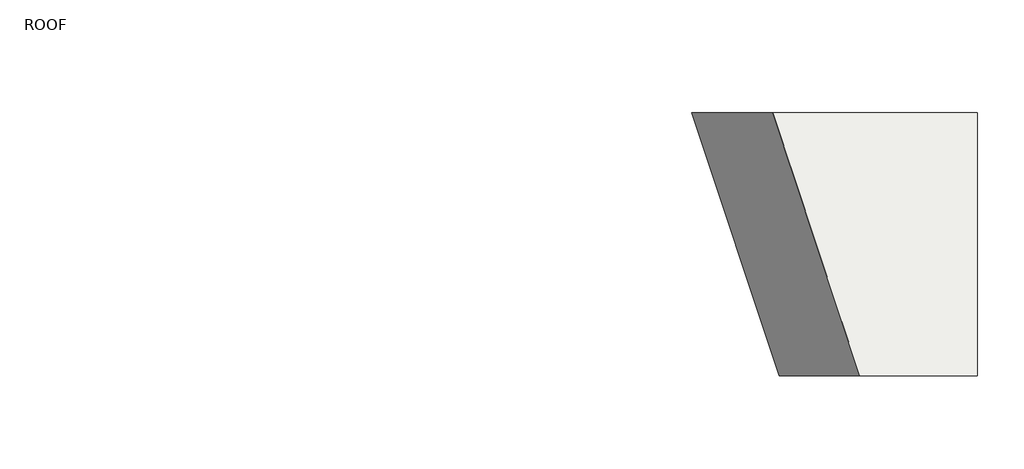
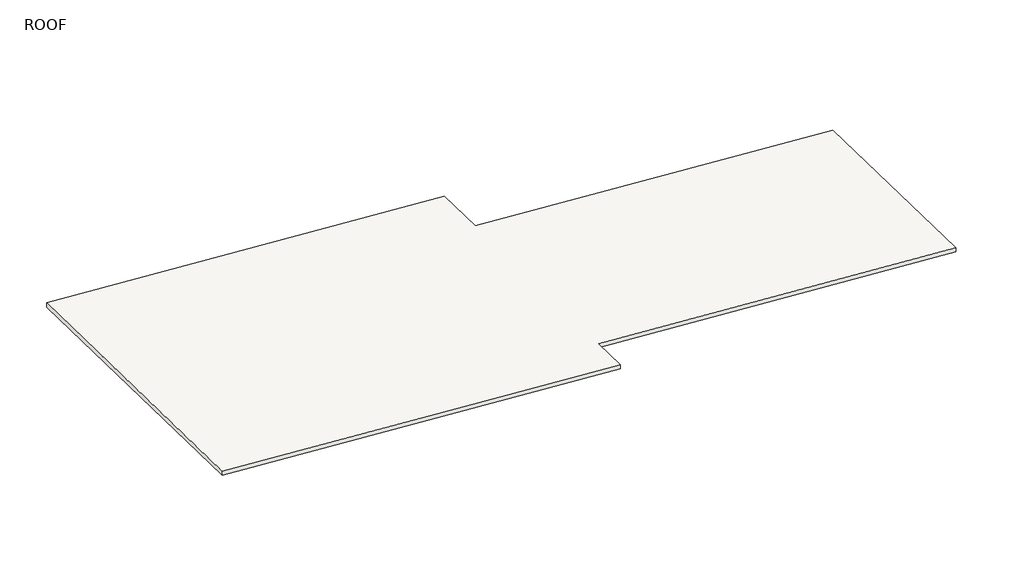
# One storey: 1 roof.
"""IFC4 building model written with IfcOpenShell, lengths in millimetres."""

import ifcopenshell
import ifcopenshell.guid

model = None  # the IFC model being written
_history = None  # IfcOwnerHistory: only IFC2X3 demands one
_inside = {}  # id of a spatial element -> (the spatial element, [elements in it])
_under = {}  # id of a project, library or spatial element -> (it, [spatial elements below it])
_declared = {}  # id of a project -> (the project, [libraries it declares])
_typed = {}  # id of a type object -> (the type object, [elements of that type])
_made_of = {}  # id of a material, layer set ... -> (it, [elements and type objects made of it])


def new_model(schema):
    """Start an empty IFC model of exactly this schema.

    Asked for "IFC4X3", IfcOpenShell would pick the latest addendum, in which some entities
    have other attributes; the version numbers below select the first issue.
    IFC2X3 requires an IfcOwnerHistory on every rooted entity: one is made here for all.
    """
    global model, _history
    if schema == "IFC4X3":
        model = ifcopenshell.file(schema_version=(4, 3, 0, 0))
    else:
        model = ifcopenshell.file(schema=schema)
    _inside.clear()
    _under.clear()
    _declared.clear()
    _typed.clear()
    _made_of.clear()
    _history = None
    if model.schema == "IFC2X3":
        org = make("IfcOrganization", Name="unknown")
        user = make(
            "IfcPersonAndOrganization",
            ThePerson=make("IfcPerson", FamilyName="unknown"),
            TheOrganization=org,
        )
        app = make(
            "IfcApplication",
            ApplicationDeveloper=org,
            Version="unknown",
            ApplicationFullName="unknown",
            ApplicationIdentifier="unknown",
        )
        _history = make(
            "IfcOwnerHistory",
            OwningUser=user,
            OwningApplication=app,
            ChangeAction="ADDED",
            CreationDate=0,
        )
    return model


def make(cls, **values):
    """One entity of the class cls with the attributes given. An attribute that is None is left unset."""
    return model.create_entity(
        cls, **{name: value for name, value in values.items() if value is not None}
    )


def rooted(cls, **values):
    """An entity with a GlobalId (a new one), such as an element, a storey or a relation."""
    return make(cls, GlobalId=ifcopenshell.guid.new(), OwnerHistory=_history, **values)


def si_unit(unit_type, name, prefix=None):
    """IfcSIUnit, for example si_unit("LENGTHUNIT", "METRE", prefix="MILLI")."""
    return make("IfcSIUnit", UnitType=unit_type, Prefix=prefix, Name=name)


def assignment(units):
    """IfcUnitAssignment: the units of a project."""
    return None if units is None else make("IfcUnitAssignment", Units=units)


def point(xyz):
    """IfcCartesianPoint."""
    return None if xyz is None else make("IfcCartesianPoint", Coordinates=xyz)


def direction(xyz):
    """IfcDirection."""
    return None if xyz is None else make("IfcDirection", DirectionRatios=xyz)


def frame(location, z_axis=None, x_axis=None):
    """IfcAxis2Placement3D, a coordinate frame: its origin and axes. An axis left out is left unset."""
    return make(
        "IfcAxis2Placement3D",
        Location=point(location),
        Axis=direction(z_axis),
        RefDirection=direction(x_axis),
    )


def origin():
    """The frame at (0, 0, 0) with its axes left unset."""
    return frame((0.0, 0.0, 0.0))


def place(relative_to, where):
    """IfcLocalPlacement: puts the frame where relative to a parent placement (None: the world)."""
    return make(
        "IfcLocalPlacement", PlacementRelTo=relative_to, RelativePlacement=where
    )


def context(
    kind, dimensions, precision=None, world=None, true_north=None, identifier=None
):
    """IfcGeometricRepresentationContext, for example the 3D "Model" context."""
    return make(
        "IfcGeometricRepresentationContext",
        ContextIdentifier=identifier,
        ContextType=kind,
        CoordinateSpaceDimension=dimensions,
        Precision=precision,
        WorldCoordinateSystem=world,
        TrueNorth=true_north,
    )


def project(units=None, contexts=None):
    """IfcProject with its units and contexts."""
    return rooted(
        "IfcProject",
        Name="project",
        RepresentationContexts=contexts,
        UnitsInContext=assignment(units),
    )


def spatial(cls, under=None, at=None, **own):
    """A site, building, storey or space (cls), placed at a placement, below another one or the project."""
    s = rooted(cls, ObjectPlacement=at, **own)
    if under is not None:
        _under.setdefault(under.id(), (under, []))[1].append(s)
    return s


def faces_of(points, faces, orient=None, outer=None):
    """IfcFace entities. A face is a list of loops; a loop is a list of indices into points, from 0.

    orient and outer hold one flag for each loop. By default every Orientation is true, the
    first loop of a face is its IfcFaceOuterBound and the others are IfcFaceBound.
    """
    made = []
    for i, loops in enumerate(faces):
        bounds = []
        for j, loop in enumerate(loops):
            is_outer = j == 0 if outer is None else outer[i][j]
            bounds.append(
                make(
                    "IfcFaceOuterBound" if is_outer else "IfcFaceBound",
                    Bound=make("IfcPolyLoop", Polygon=[points[k] for k in loop]),
                    Orientation=True if orient is None else orient[i][j],
                )
            )
        made.append(make("IfcFace", Bounds=bounds))
    return made


def faceted_brep(points, faces, orient=None, outer=None, voids=None):
    """IfcFacetedBrep: a solid bounded by flat faces; with voids (closed shells), ...WithVoids."""
    shared = [point(p) for p in points]
    hull = make("IfcClosedShell", CfsFaces=faces_of(shared, faces, orient, outer))
    if voids is None:
        return make("IfcFacetedBrep", Outer=hull)
    return make(
        "IfcFacetedBrepWithVoids",
        Outer=hull,
        Voids=[
            make(cls, CfsFaces=faces_of(shared, fs, o, b)) for cls, fs, o, b in voids
        ],
    )


def shape(context_of_items, identifier, shape_type, items):
    """IfcShapeRepresentation: the items that make up one representation, for example the "Body"."""
    return make(
        "IfcShapeRepresentation",
        ContextOfItems=context_of_items,
        RepresentationIdentifier=identifier,
        RepresentationType=shape_type,
        Items=items,
    )


def made_of(thing, what):
    """Note that an element or type object is made of a material, layer set ...; save() writes the relation."""
    if what is not None:
        _made_of.setdefault(what.id(), (what, []))[1].append(thing)
    return thing


def element(
    cls,
    number,
    at=None,
    inside=None,
    cuts=None,
    type_object=None,
    material=None,
    context=None,
    identifier="Body",
    shape_type=None,
    held_by="IfcProductDefinitionShape",
    body=None,
    shapes=None,
    **own,
):
    """One element of the class cls, such as IfcWall. Its Tag is "e" and its number.

    at: its placement. inside: the storey or other place that contains it. cuts: it is an
    opening in that element (IfcRelVoidsElement). A single representation is given by context,
    identifier, shape_type and body (its items); several are given by shapes. held_by: the class
    of the entity that holds the representations. save() writes the other relations.
    """
    e = rooted(cls, Tag="e%d" % number, ObjectPlacement=at, **own)
    if body is not None:
        shapes = [shape(context, identifier, shape_type, body)]
    if shapes is not None:
        e.Representation = make(held_by, Representations=shapes)
    if inside is not None:
        _inside.setdefault(inside.id(), (inside, []))[1].append(e)
    if cuts is not None:
        rooted(
            "IfcRelVoidsElement", RelatingBuildingElement=cuts, RelatedOpeningElement=e
        )
    if type_object is not None:
        _typed.setdefault(type_object.id(), (type_object, []))[1].append(e)
    return made_of(e, material)


def aggregate(whole, parts):
    """IfcRelAggregates: a whole, such as a stair, and the parts it consists of."""
    return rooted("IfcRelAggregates", RelatingObject=whole, RelatedObjects=parts)


def save(model, path):
    """Write the relations noted so far, then the file.

    IfcRelAggregates (storeys below a building ...), IfcRelContainedInSpatialStructure (elements
    in a storey), IfcRelDefinesByType, IfcRelAssociatesMaterial and IfcRelDeclares: one each for
    every whole, place, type object, material and project.
    """
    for whole, parts in _under.values():
        aggregate(whole, parts)
    for where, things in _inside.values():
        rooted(
            "IfcRelContainedInSpatialStructure",
            RelatedElements=things,
            RelatingStructure=where,
        )
    for kind, things in _typed.values():
        rooted("IfcRelDefinesByType", RelatedObjects=things, RelatingType=kind)
    for what, things in _made_of.values():
        rooted("IfcRelAssociatesMaterial", RelatedObjects=things, RelatingMaterial=what)
    for by, libraries in _declared.values():
        rooted("IfcRelDeclares", RelatingContext=by, RelatedDefinitions=libraries)
    model.write(path)


model = new_model("IFC4")

# Units and contexts
model_context = context("Model", 3, world=origin())
ifc_project = project(units=[si_unit("LENGTHUNIT", "METRE", prefix="MILLI")], contexts=[model_context])

# Site, building, storey
site = spatial("IfcSite", under=ifc_project)
building = spatial("IfcBuilding", under=site)
storey = spatial("IfcBuildingStorey", under=building, Name="ROOF", Elevation=8000.0)

# Roof
placement = place(None, origin())
element("IfcRoof", 1, ObjectType="Warm Roof - Timber", at=placement, inside=storey, context=model_context, shape_type="Brep", body=[
    faceted_brep([(-17498.6891263, 11459.4675965, 11819.9667176), (13551.3108737, 11459.4675965, 9759.4964136), (13551.3108737, 7259.4675965, 9852.1006823), (41461.3108737, 7259.4675965, 8000.0), (41461.3108737, -9380.5324035, 8366.8892934), (13551.3108737, -9380.5324035, 10218.9899758), (13551.3108737, -12330.5324035, 10284.0334503), (-17498.6891263, -12330.5324035, 12344.5037543), (13551.3108737, 11459.4675965, 10098.3217751), (-17498.6891263, 11459.4675965, 12158.7920792), (-17498.6891263, -12330.5324035, 12683.3291159), (13551.3108737, -12330.5324035, 10622.8588118), (13551.3108737, -9380.5324035, 10557.8153373), (41461.3108737, -9380.5324035, 8705.714655), (41461.3108737, 7259.4675965, 8338.8253616), (13551.3108737, 7259.4675965, 10190.9260439)], [[[0, 1, 2, 3, 4, 5, 6, 7]], [[8, 9, 10, 11, 12, 13, 14, 15]], [[9, 8, 1, 0]], [[10, 9, 0, 7]], [[11, 10, 7, 6]], [[12, 11, 6, 5]], [[13, 12, 5, 4]], [[14, 13, 4, 3]], [[15, 14, 3, 2]], [[8, 15, 2, 1]]]),
])

save(model, "model.ifc")
